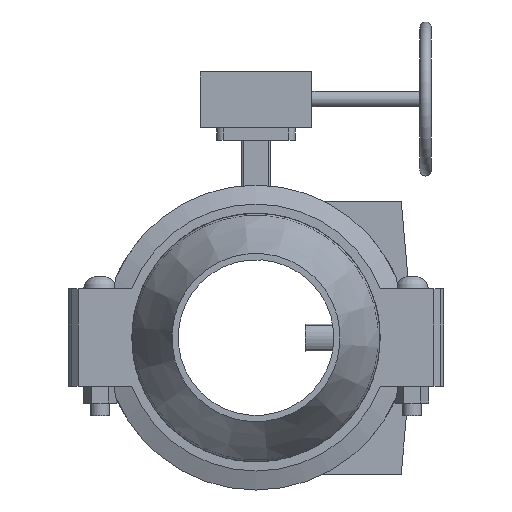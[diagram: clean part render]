
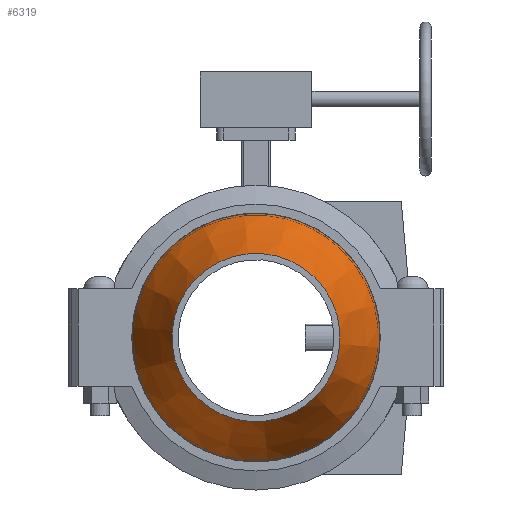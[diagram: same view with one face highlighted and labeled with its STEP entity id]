
A CAD part, front view. The second image highlights one B-rep face of the part: STEP entity #6319.
In plain terms, the highlighted conical face has half-angle 24.624 degrees and reference radius 135.731 mm.
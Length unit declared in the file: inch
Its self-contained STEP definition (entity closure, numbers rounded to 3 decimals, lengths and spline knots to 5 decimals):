
#150=CONICAL_SURFACE('',#6885,5.34375,0.43);
#165=LINE('',#9613,#630);
#630=VECTOR('',#7663,5.34375);
#1283=FACE_OUTER_BOUND('',#1639,.T.);
#1639=EDGE_LOOP('',(#3966,#3967,#3968,#3969,#3970,#3971));
#2069=CIRCLE('',#6883,6.375);
#2070=CIRCLE('',#6884,6.375);
#2071=CIRCLE('',#6886,4.3125);
#2072=CIRCLE('',#6887,4.3125);
#2435=VERTEX_POINT('',#9603);
#2436=VERTEX_POINT('',#9604);
#2437=VERTEX_POINT('',#9609);
#2438=VERTEX_POINT('',#9610);
#3051=EDGE_CURVE('',#2435,#2436,#2069,.T.);
#3052=EDGE_CURVE('',#2436,#2435,#2070,.T.);
#3054=EDGE_CURVE('',#2437,#2438,#2071,.T.);
#3055=EDGE_CURVE('',#2438,#2437,#2072,.T.);
#3056=EDGE_CURVE('',#2438,#2436,#165,.T.);
#3966=ORIENTED_EDGE('',*,*,#3054,.F.);
#3967=ORIENTED_EDGE('',*,*,#3055,.F.);
#3968=ORIENTED_EDGE('',*,*,#3056,.T.);
#3969=ORIENTED_EDGE('',*,*,#3052,.T.);
#3970=ORIENTED_EDGE('',*,*,#3051,.T.);
#3971=ORIENTED_EDGE('',*,*,#3056,.F.);
#6319=ADVANCED_FACE('',(#1283),#150,.T.);
#6883=AXIS2_PLACEMENT_3D('',#9605,#7652,#7653);
#6884=AXIS2_PLACEMENT_3D('',#9606,#7654,#7655);
#6885=AXIS2_PLACEMENT_3D('',#9608,#7657,#7658);
#6886=AXIS2_PLACEMENT_3D('',#9611,#7659,#7660);
#6887=AXIS2_PLACEMENT_3D('',#9612,#7661,#7662);
#7652=DIRECTION('center_axis',(1.,0.,0.));
#7653=DIRECTION('ref_axis',(0.,1.,0.));
#7654=DIRECTION('center_axis',(1.,0.,0.));
#7655=DIRECTION('ref_axis',(0.,1.,0.));
#7657=DIRECTION('center_axis',(-1.,0.,0.));
#7658=DIRECTION('ref_axis',(0.,1.,0.));
#7659=DIRECTION('center_axis',(1.,0.,0.));
#7660=DIRECTION('ref_axis',(0.,1.,0.));
#7661=DIRECTION('center_axis',(1.,0.,0.));
#7662=DIRECTION('ref_axis',(0.,1.,0.));
#7663=DIRECTION('',(-0.909,-0.417,0.));
#9603=CARTESIAN_POINT('',(1.281,6.375,0.));
#9604=CARTESIAN_POINT('',(1.281,-6.375,0.));
#9605=CARTESIAN_POINT('Origin',(1.281,0.,0.));
#9606=CARTESIAN_POINT('Origin',(1.281,0.,0.));
#9608=CARTESIAN_POINT('Origin',(3.531,0.,0.));
#9609=CARTESIAN_POINT('',(5.781,4.3125,0.));
#9610=CARTESIAN_POINT('',(5.781,-4.3125,0.));
#9611=CARTESIAN_POINT('Origin',(5.781,0.,0.));
#9612=CARTESIAN_POINT('Origin',(5.781,0.,0.));
#9613=CARTESIAN_POINT('',(3.531,-5.34375,0.));
